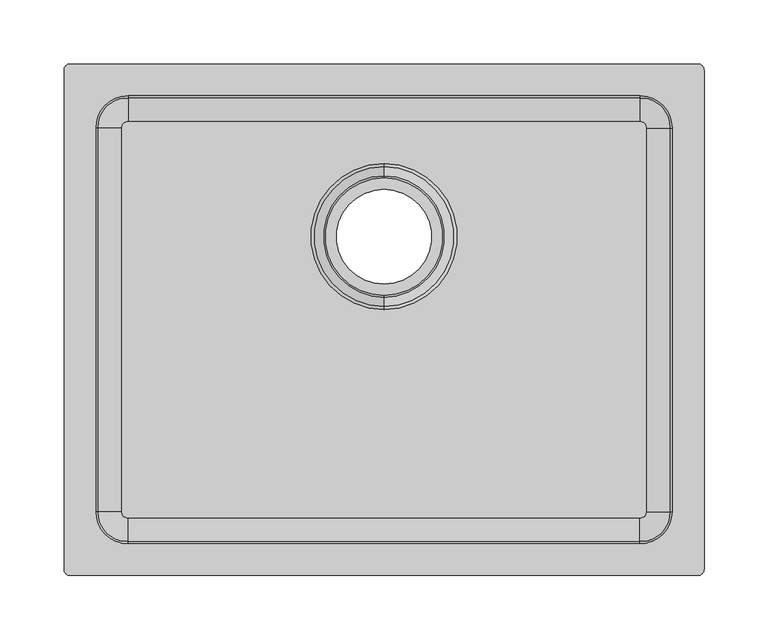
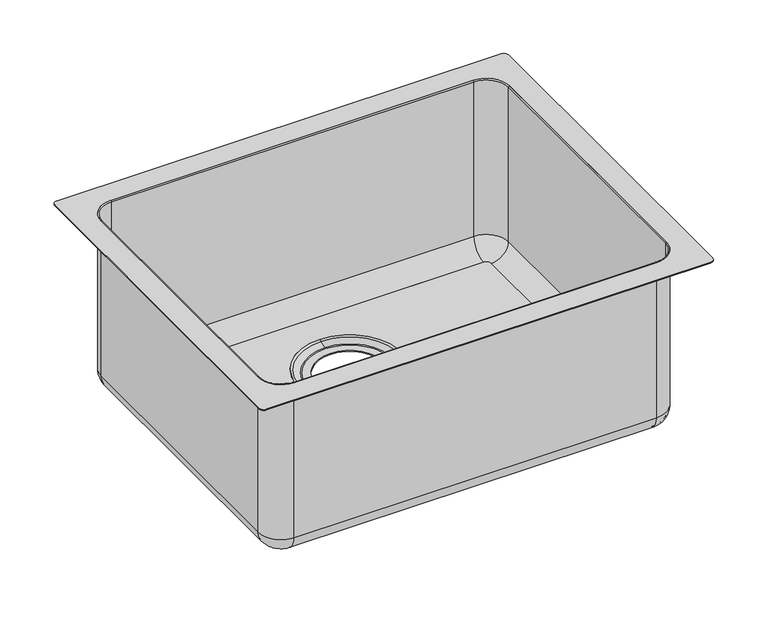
"""IFC4 building model written with IfcOpenShell, lengths in millimetres: flow terminal geometry, Cuba_Cozinha : Cuba 40x50."""

from ifc_helpers import new_model, si_unit, point, frame, frame_2d, origin, place, context, project, spatial, polyline, circle_curve, ellipse_curve, trimmed, segment, composite_curve, outline, extrude, source, transform, mapped, element, save
from ifc_brep_helpers import plane_surface, cylinder_surface, revolved_surface, advanced_brep


def flow_terminal_5b9333c3(model_context):
    return source(origin(), model_context, "Body", "SolidModel", [
        advanced_brep(
        [(0.0, 119.6531226, 700.3536886), (0.0, 10.3468774, 700.3536886), (0.0, 8.0, 701.2), (0.0, 122.0, 701.2), (0.0, 112.4483726, 697.4717886), (0.0, 17.5516274, 697.4717886), (0.0, 111.037088, 697.2), (0.0, 18.962912, 697.2), (0.0, 102.0, 696.0), (0.0, 28.0, 696.0), (0.0, 28.0, 697.2), (0.0, 102.0, 697.2), (0.0, 112.8940414, 696.3576165), (0.0, 17.1059586, 696.3576165), (0.0, 18.962912, 696.0), (0.0, 111.037088, 696.0), (0.0, 122.0, 700.0), (0.0, 8.0, 700.0)],
        [
            (0, 1, circle_curve(frame((0.0, 65.0, 700.3536886), z_axis=(0.0, 0.0, -1.0), x_axis=(0.0, -1.0, 0.0)), 54.6531226)),
            (1, 2, circle_curve(frame((0.0, 4.7160597, 688.416238), z_axis=(1.0, 0.0, 0.0), x_axis=(0.0, 1.0, 0.0)), 13.1988195)),
            (2, 3, circle_curve(frame((0.0, 65.0, 701.2), z_axis=(0.0, 0.0, 1.0), x_axis=(0.0, -1.0, 0.0)), 57.0)),
            (3, 0, circle_curve(frame((0.0, 125.2839403, 688.416238), z_axis=(1.0, 0.0, 0.0), x_axis=(0.0, -1.0, 0.0)), 13.1988195)),
            (4, 5, circle_curve(frame((0.0, 65.0, 697.4717886), z_axis=(0.0, 0.0, -1.0), x_axis=(0.0, -1.0, 0.0)), 47.4483726)),
            (5, 1),
            (0, 4),
            (6, 7, circle_curve(frame((0.0, 65.0, 697.2), z_axis=(0.0, 0.0, -1.0), x_axis=(0.0, -1.0, 0.0)), 46.037088)),
            (7, 5, circle_curve(frame((0.0, 18.962912, 701.0), z_axis=(-1.0, 0.0, 0.0), x_axis=(0.0, 1.0, 0.0)), 3.8)),
            (4, 6, circle_curve(frame((0.0, 111.037088, 701.0), z_axis=(-1.0, 0.0, 0.0), x_axis=(0.0, -1.0, 0.0)), 3.8)),
            (8, 9, circle_curve(frame((0.0, 65.0, 696.0), z_axis=(0.0, 0.0, -1.0), x_axis=(0.0, -1.0, 0.0)), 37.0)),
            (9, 10),
            (10, 11, circle_curve(frame((0.0, 65.0, 697.2), z_axis=(0.0, 0.0, 1.0), x_axis=(0.0, -1.0, 0.0)), 37.0)),
            (11, 8),
            (12, 13, circle_curve(frame((0.0, 65.0, 696.3576165), z_axis=(0.0, 0.0, -1.0), x_axis=(0.0, -1.0, 0.0)), 47.8940414)),
            (13, 14, circle_curve(frame((0.0, 18.962912, 701.0), z_axis=(1.0, 0.0, 0.0), x_axis=(0.0, 1.0, 0.0)), 5.0)),
            (14, 15, circle_curve(frame((0.0, 65.0, 696.0), z_axis=(0.0, 0.0, 1.0), x_axis=(0.0, -1.0, 0.0)), 46.037088)),
            (15, 12, circle_curve(frame((0.0, 111.037088, 701.0), z_axis=(1.0, 0.0, 0.0), x_axis=(0.0, -1.0, 0.0)), 5.0)),
            (16, 17, circle_curve(frame((0.0, 65.0, 700.0), z_axis=(0.0, 0.0, -1.0), x_axis=(0.0, -1.0, 0.0)), 57.0)),
            (17, 13),
            (12, 16),
            (2, 17),
            (16, 3),
            (1, 0, circle_curve(frame((0.0, 65.0, 700.3536886), z_axis=(0.0, 0.0, -1.0), x_axis=(0.0, 1.0, 0.0)), 54.6531226)),
            (3, 2, circle_curve(frame((0.0, 65.0, 701.2), z_axis=(0.0, 0.0, 1.0), x_axis=(0.0, 1.0, 0.0)), 57.0)),
            (5, 4, circle_curve(frame((0.0, 65.0, 697.4717886), z_axis=(0.0, 0.0, -1.0), x_axis=(0.0, 1.0, 0.0)), 47.4483726)),
            (7, 6, circle_curve(frame((0.0, 65.0, 697.2), z_axis=(0.0, 0.0, -1.0), x_axis=(0.0, 1.0, 0.0)), 46.037088)),
            (10, 11, circle_curve(frame((0.0, 65.0, 697.2), z_axis=(0.0, 0.0, -1.0), x_axis=(0.0, 1.0, 0.0)), 37.0)),
            (9, 8, circle_curve(frame((0.0, 65.0, 696.0), z_axis=(0.0, 0.0, -1.0), x_axis=(0.0, 1.0, 0.0)), 37.0)),
            (14, 15, circle_curve(frame((0.0, 65.0, 696.0), z_axis=(0.0, 0.0, -1.0), x_axis=(0.0, 1.0, 0.0)), 46.037088)),
            (13, 12, circle_curve(frame((0.0, 65.0, 696.3576165), z_axis=(0.0, 0.0, -1.0), x_axis=(0.0, 1.0, 0.0)), 47.8940414)),
            (17, 16, circle_curve(frame((0.0, 65.0, 700.0), z_axis=(0.0, 0.0, -1.0), x_axis=(0.0, 1.0, 0.0)), 57.0)),
        ],
        [
            revolved_surface(trimmed(ellipse_curve(frame((0.0, 4.7160597, 688.416238), z_axis=(-1.0, 0.0, 0.0), x_axis=(0.0, 1.0, 0.0)), 13.1988195, 13.1988195), [point((0.0, 8.0, 701.2))], [point((0.0, 10.3468774, 700.3536886))], True, "CARTESIAN"), (0.0, 65.0, 701.2), (0.0, 0.0, 1.0)),
            revolved_surface(polyline([(0.0, 10.3468774, 700.3536886), (0.0, 17.5516274, 697.4717886)]), (0.0, 65.0, 701.2), (0.0, 0.0, 1.0)),
            revolved_surface(trimmed(ellipse_curve(frame((0.0, 18.962912, 701.0), z_axis=(1.0, 0.0, 0.0), x_axis=(0.0, 1.0, 0.0)), 3.8, 3.8), [point((0.0, 17.5516274, 697.4717886))], [point((0.0, 18.962912, 697.2))], True, "CARTESIAN"), (0.0, 65.0, 701.2), (0.0, 0.0, 1.0)),
            revolved_surface(polyline([(0.0, 28.0, 697.2), (0.0, 28.0, 696.0)]), (0.0, 65.0, 701.2), (0.0, 0.0, 1.0)),
            revolved_surface(trimmed(ellipse_curve(frame((0.0, 18.962912, 701.0), z_axis=(-1.0, 0.0, 0.0), x_axis=(0.0, 1.0, 0.0)), 5.0, 5.0), [point((0.0, 18.962912, 696.0))], [point((0.0, 17.1059586, 696.3576165))], True, "CARTESIAN"), (0.0, 65.0, 701.2), (0.0, 0.0, 1.0)),
            revolved_surface(polyline([(0.0, 17.1059586, 696.3576165), (0.0, 8.0, 700.0)]), (0.0, 65.0, 701.2), (0.0, 0.0, 1.0)),
            cylinder_surface(frame((0.0, 65.0, 701.2), z_axis=(0.0, 0.0, 1.0), x_axis=(0.0, -1.0, 0.0)), 57.0),
            revolved_surface(trimmed(ellipse_curve(frame((0.0, 125.2839403, 688.416238), z_axis=(1.0, 0.0, 0.0), x_axis=(0.0, -1.0, 0.0)), 13.1988195, 13.1988195), [point((0.0, 122.0, 701.2))], [point((0.0, 119.6531226, 700.3536886))], True, "CARTESIAN"), (0.0, 65.0, 701.2), (0.0, 0.0, 1.0)),
            revolved_surface(polyline([(0.0, 119.6531226, 700.3536886), (0.0, 112.4483726, 697.4717886)]), (0.0, 65.0, 701.2), (0.0, 0.0, 1.0)),
            revolved_surface(trimmed(ellipse_curve(frame((0.0, 111.037088, 701.0), z_axis=(-1.0, 0.0, 0.0), x_axis=(0.0, -1.0, 0.0)), 3.8, 3.8), [point((0.0, 112.4483726, 697.4717886))], [point((0.0, 111.037088, 697.2))], True, "CARTESIAN"), (0.0, 65.0, 701.2), (0.0, 0.0, 1.0)),
            plane_surface(frame((0.0, 65.0, 697.2), z_axis=(0.0, 0.0, 1.0), x_axis=(0.0, 1.0, 0.0))),
            revolved_surface(polyline([(0.0, 102.0, 697.2), (0.0, 102.0, 696.0)]), (0.0, 65.0, 701.2), (0.0, 0.0, 1.0)),
            plane_surface(frame((0.0, 65.0, 696.0), z_axis=(0.0, 0.0, -1.0), x_axis=(0.0, 1.0, 0.0))),
            revolved_surface(trimmed(ellipse_curve(frame((0.0, 111.037088, 701.0), z_axis=(1.0, 0.0, 0.0), x_axis=(0.0, -1.0, 0.0)), 5.0, 5.0), [point((0.0, 111.037088, 696.0))], [point((0.0, 112.8940414, 696.3576165))], True, "CARTESIAN"), (0.0, 65.0, 701.2), (0.0, 0.0, 1.0)),
            revolved_surface(polyline([(0.0, 112.8940414, 696.3576165), (0.0, 122.0, 700.0)]), (0.0, 65.0, 701.2), (0.0, 0.0, 1.0)),
            cylinder_surface(frame((0.0, 65.0, 701.2), z_axis=(0.0, 0.0, 1.0), x_axis=(0.0, 1.0, 0.0)), 57.0),
        ],
        [
            (0, [[1, 2, 3, 4]]),
            (1, [[5, 6, -1, 7]]),
            (2, [[8, 9, -5, 10]]),
            (3, [[11, 12, 13, 14]]),
            (4, [[15, 16, 17, 18]]),
            (5, [[19, 20, -15, 21]]),
            (6, [[-3, 22, -19, 23]]),
            (7, [[24, -4, 25, -2]]),
            (8, [[26, -7, -24, -6]]),
            (9, [[27, -10, -26, -9]]),
            (10, [[-27, -8], [28, -13]]),
            (11, [[29, -14, -28, -12]]),
            (12, [[30, -17], [-29, -11]]),
            (13, [[31, -18, -30, -16]]),
            (14, [[32, -21, -31, -20]]),
            (15, [[-25, -23, -32, -22]]),
        ],
    ),
        extrude(outline(composite_curve([segment(polyline([(-200.0, 155.0), (200.0, 155.0)]), True, "CONTINUOUS"), segment(trimmed(circle_curve(frame_2d((200.0, 150.0)), 5.0), [point((200.0, 155.0))], [point((205.0, 150.0))], False, "CARTESIAN"), True, "CONTINUOUS"), segment(polyline([(205.0, 150.0), (205.0, -150.0)]), True, "CONTINUOUS"), segment(trimmed(circle_curve(frame_2d((200.0, -150.0)), 5.0), [point((205.0, -150.0))], [point((200.0, -155.0))], False, "CARTESIAN"), True, "CONTINUOUS"), segment(polyline([(200.0, -155.0), (-200.0, -155.0)]), True, "CONTINUOUS"), segment(trimmed(circle_curve(frame_2d((-200.0, -150.0)), 5.0), [point((-200.0, -155.0))], [point((-205.0, -150.0))], False, "CARTESIAN"), True, "CONTINUOUS"), segment(polyline([(-205.0, -150.0), (-205.0, 150.0)]), True, "CONTINUOUS"), segment(trimmed(circle_curve(frame_2d((-200.0, 150.0)), 5.0), [point((-205.0, 150.0))], [point((-200.0, 155.0))], False, "CARTESIAN"), True, "CONTINUOUS")], self_intersect=False), holes=[composite_curve([segment(trimmed(circle_curve(frame_2d((0.0, 65.0)), 57.0), [point((0.0, 8.0))], [point((0.0, 122.0))], True, "CARTESIAN"), True, "CONTINUOUS"), segment(trimmed(circle_curve(frame_2d((0.0, 65.0)), 57.0), [point((0.0, 122.0))], [point((0.0, 8.0))], True, "CARTESIAN"), True, "CONTINUOUS")], self_intersect=False)]), frame((0.0, 0.0, 700.0), z_axis=(0.0, 0.0, 1.0), x_axis=(1.0, 0.0, 0.0)), (0.0, 0.0, 1.0), 1.2),
        advanced_brep(
        [(205.0, 150.0, 700.0), (200.0, 155.0, 700.0), (200.0, 175.0, 720.0), (225.0, 150.0, 720.0), (205.0, 150.0, 701.2), (200.0, 155.0, 701.2), (223.8, 150.0, 720.0), (200.0, 173.8, 720.0), (223.8, 150.0, 900.0), (200.0, 173.8, 900.0), (225.0, 150.0, 901.2), (200.0, 175.0, 901.2), (225.0, -150.0, 720.0), (205.0, -150.0, 700.0), (205.0, -150.0, 701.2), (223.8, -150.0, 720.0), (223.8, -150.0, 900.0), (225.0, -150.0, 901.2), (200.0, -155.0, 700.0), (200.0, -175.0, 720.0), (200.0, -155.0, 701.2), (200.0, -173.8, 720.0), (200.0, -173.8, 900.0), (200.0, -175.0, 901.2), (-200.0, -175.0, 720.0), (-200.0, -155.0, 700.0), (-200.0, -155.0, 701.2), (-200.0, -173.8, 720.0), (-200.0, -173.8, 900.0), (-200.0, -175.0, 901.2), (-205.0, -150.0, 700.0), (-225.0, -150.0, 720.0), (-205.0, -150.0, 701.2), (-223.8, -150.0, 720.0), (-223.8, -150.0, 900.0), (-225.0, -150.0, 901.2), (-225.0, 150.0, 720.0), (-205.0, 150.0, 700.0), (-205.0, 150.0, 701.2), (-223.8, 150.0, 720.0), (-223.8, 150.0, 900.0), (-225.0, 150.0, 901.2), (-200.0, 155.0, 700.0), (-200.0, 175.0, 720.0), (-200.0, 155.0, 701.2), (-200.0, 173.8, 720.0), (-200.0, 173.8, 900.0), (-200.0, 175.0, 901.2)],
        [
            (0, 1, circle_curve(frame((200.0, 150.0, 700.0), z_axis=(0.0, 0.0, 1.0), x_axis=(0.0, 1.0, 0.0)), 5.0)),
            (1, 2, circle_curve(frame((200.0, 155.0, 720.0), z_axis=(1.0, 0.0, 0.0), x_axis=(0.0, 1.0, 0.0)), 20.0)),
            (2, 3, circle_curve(frame((200.0, 150.0, 720.0), z_axis=(0.0, 0.0, -1.0), x_axis=(0.0, 1.0, 0.0)), 25.0)),
            (3, 0, circle_curve(frame((205.0, 150.0, 720.0), z_axis=(0.0, 1.0, 0.0), x_axis=(1.0, 0.0, 0.0)), 20.0)),
            (4, 5, circle_curve(frame((200.0, 150.0, 701.2), z_axis=(0.0, 0.0, 1.0), x_axis=(0.0, 1.0, 0.0)), 5.0)),
            (5, 1),
            (0, 4),
            (6, 7, circle_curve(frame((200.0, 150.0, 720.0), z_axis=(0.0, 0.0, 1.0), x_axis=(0.0, 1.0, 0.0)), 23.8)),
            (7, 5, circle_curve(frame((200.0, 155.0, 720.0), z_axis=(-1.0, 0.0, 0.0), x_axis=(0.0, 1.0, 0.0)), 18.8)),
            (4, 6, circle_curve(frame((205.0, 150.0, 720.0), z_axis=(0.0, -1.0, 0.0), x_axis=(1.0, 0.0, 0.0)), 18.8)),
            (8, 9, circle_curve(frame((200.0, 150.0, 900.0), z_axis=(0.0, 0.0, 1.0), x_axis=(0.0, 1.0, 0.0)), 23.8)),
            (9, 7),
            (6, 8),
            (10, 11, circle_curve(frame((200.0, 150.0, 901.2), z_axis=(0.0, 0.0, 1.0), x_axis=(0.0, 1.0, 0.0)), 25.0)),
            (11, 9, circle_curve(frame((200.0, 175.0, 900.0), z_axis=(1.0, 0.0, 0.0), x_axis=(0.0, 1.0, 0.0)), 1.2)),
            (8, 10, circle_curve(frame((225.0, 150.0, 900.0), z_axis=(0.0, 1.0, 0.0), x_axis=(1.0, 0.0, 0.0)), 1.2)),
            (2, 11),
            (10, 3),
            (3, 12),
            (12, 13, circle_curve(frame((205.0, -150.0, 720.0), z_axis=(0.0, 1.0, 0.0), x_axis=(1.0, 0.0, 0.0)), 20.0)),
            (13, 0),
            (13, 14),
            (14, 4),
            (14, 15, circle_curve(frame((205.0, -150.0, 720.0), z_axis=(0.0, -1.0, 0.0), x_axis=(1.0, 0.0, 0.0)), 18.8)),
            (15, 6),
            (15, 16),
            (16, 8),
            (16, 17, circle_curve(frame((225.0, -150.0, 900.0), z_axis=(0.0, 1.0, 0.0), x_axis=(1.0, 0.0, 0.0)), 1.2)),
            (17, 10),
            (17, 12),
            (18, 13, circle_curve(frame((200.0, -150.0, 700.0), z_axis=(0.0, 0.0, 1.0), x_axis=(1.0, 0.0, 0.0)), 5.0)),
            (12, 19, circle_curve(frame((200.0, -150.0, 720.0), z_axis=(0.0, 0.0, -1.0), x_axis=(1.0, 0.0, 0.0)), 25.0)),
            (19, 18, circle_curve(frame((200.0, -155.0, 720.0), z_axis=(1.0, 0.0, 0.0), x_axis=(0.0, -1.0, 0.0)), 20.0)),
            (20, 14, circle_curve(frame((200.0, -150.0, 701.2), z_axis=(0.0, 0.0, 1.0), x_axis=(1.0, 0.0, 0.0)), 5.0)),
            (18, 20),
            (21, 15, circle_curve(frame((200.0, -150.0, 720.0), z_axis=(0.0, 0.0, 1.0), x_axis=(1.0, 0.0, 0.0)), 23.8)),
            (20, 21, circle_curve(frame((200.0, -155.0, 720.0), z_axis=(-1.0, 0.0, 0.0), x_axis=(0.0, -1.0, 0.0)), 18.8)),
            (22, 16, circle_curve(frame((200.0, -150.0, 900.0), z_axis=(0.0, 0.0, 1.0), x_axis=(1.0, 0.0, 0.0)), 23.8)),
            (21, 22),
            (23, 17, circle_curve(frame((200.0, -150.0, 901.2), z_axis=(0.0, 0.0, 1.0), x_axis=(1.0, 0.0, 0.0)), 25.0)),
            (22, 23, circle_curve(frame((200.0, -175.0, 900.0), z_axis=(1.0, 0.0, 0.0), x_axis=(0.0, -1.0, 0.0)), 1.2)),
            (23, 19),
            (19, 24),
            (24, 25, circle_curve(frame((-200.0, -155.0, 720.0), z_axis=(1.0, 0.0, 0.0), x_axis=(0.0, -1.0, 0.0)), 20.0)),
            (25, 18),
            (25, 26),
            (26, 20),
            (26, 27, circle_curve(frame((-200.0, -155.0, 720.0), z_axis=(-1.0, 0.0, 0.0), x_axis=(0.0, -1.0, 0.0)), 18.8)),
            (27, 21),
            (27, 28),
            (28, 22),
            (28, 29, circle_curve(frame((-200.0, -175.0, 900.0), z_axis=(1.0, 0.0, 0.0), x_axis=(0.0, -1.0, 0.0)), 1.2)),
            (29, 23),
            (29, 24),
            (30, 25, circle_curve(frame((-200.0, -150.0, 700.0), z_axis=(0.0, 0.0, 1.0), x_axis=(0.0, -1.0, 0.0)), 5.0)),
            (24, 31, circle_curve(frame((-200.0, -150.0, 720.0), z_axis=(0.0, 0.0, -1.0), x_axis=(0.0, -1.0, 0.0)), 25.0)),
            (31, 30, circle_curve(frame((-205.0, -150.0, 720.0), z_axis=(0.0, -1.0, 0.0), x_axis=(-1.0, 0.0, 0.0)), 20.0)),
            (32, 26, circle_curve(frame((-200.0, -150.0, 701.2), z_axis=(0.0, 0.0, 1.0), x_axis=(0.0, -1.0, 0.0)), 5.0)),
            (30, 32),
            (33, 27, circle_curve(frame((-200.0, -150.0, 720.0), z_axis=(0.0, 0.0, 1.0), x_axis=(0.0, -1.0, 0.0)), 23.8)),
            (32, 33, circle_curve(frame((-205.0, -150.0, 720.0), z_axis=(0.0, 1.0, 0.0), x_axis=(-1.0, 0.0, 0.0)), 18.8)),
            (34, 28, circle_curve(frame((-200.0, -150.0, 900.0), z_axis=(0.0, 0.0, 1.0), x_axis=(0.0, -1.0, 0.0)), 23.8)),
            (33, 34),
            (35, 29, circle_curve(frame((-200.0, -150.0, 901.2), z_axis=(0.0, 0.0, 1.0), x_axis=(0.0, -1.0, 0.0)), 25.0)),
            (34, 35, circle_curve(frame((-225.0, -150.0, 900.0), z_axis=(0.0, -1.0, 0.0), x_axis=(-1.0, 0.0, 0.0)), 1.2)),
            (35, 31),
            (31, 36),
            (36, 37, circle_curve(frame((-205.0, 150.0, 720.0), z_axis=(0.0, -1.0, 0.0), x_axis=(-1.0, 0.0, 0.0)), 20.0)),
            (37, 30),
            (37, 38),
            (38, 32),
            (38, 39, circle_curve(frame((-205.0, 150.0, 720.0), z_axis=(0.0, 1.0, 0.0), x_axis=(-1.0, 0.0, 0.0)), 18.8)),
            (39, 33),
            (39, 40),
            (40, 34),
            (40, 41, circle_curve(frame((-225.0, 150.0, 900.0), z_axis=(0.0, -1.0, 0.0), x_axis=(-1.0, 0.0, 0.0)), 1.2)),
            (41, 35),
            (41, 36),
            (42, 37, circle_curve(frame((-200.0, 150.0, 700.0), z_axis=(0.0, 0.0, 1.0), x_axis=(-1.0, 0.0, 0.0)), 5.0)),
            (36, 43, circle_curve(frame((-200.0, 150.0, 720.0), z_axis=(0.0, 0.0, -1.0), x_axis=(-1.0, 0.0, 0.0)), 25.0)),
            (43, 42, circle_curve(frame((-200.0, 155.0, 720.0), z_axis=(-1.0, 0.0, 0.0), x_axis=(0.0, 1.0, 0.0)), 20.0)),
            (44, 38, circle_curve(frame((-200.0, 150.0, 701.2), z_axis=(0.0, 0.0, 1.0), x_axis=(-1.0, 0.0, 0.0)), 5.0)),
            (42, 44),
            (45, 39, circle_curve(frame((-200.0, 150.0, 720.0), z_axis=(0.0, 0.0, 1.0), x_axis=(-1.0, 0.0, 0.0)), 23.8)),
            (44, 45, circle_curve(frame((-200.0, 155.0, 720.0), z_axis=(1.0, 0.0, 0.0), x_axis=(0.0, 1.0, 0.0)), 18.8)),
            (46, 40, circle_curve(frame((-200.0, 150.0, 900.0), z_axis=(0.0, 0.0, 1.0), x_axis=(-1.0, 0.0, 0.0)), 23.8)),
            (45, 46),
            (47, 41, circle_curve(frame((-200.0, 150.0, 901.2), z_axis=(0.0, 0.0, 1.0), x_axis=(-1.0, 0.0, 0.0)), 25.0)),
            (46, 47, circle_curve(frame((-200.0, 175.0, 900.0), z_axis=(-1.0, 0.0, 0.0), x_axis=(0.0, 1.0, 0.0)), 1.2)),
            (47, 43),
            (43, 2),
            (1, 42),
            (5, 44),
            (7, 45),
            (9, 46),
            (11, 47),
        ],
        [
            revolved_surface(trimmed(ellipse_curve(frame((200.0, 155.0, 720.0), z_axis=(-1.0, 0.0, 0.0), x_axis=(0.0, 1.0, 0.0)), 20.0, 20.0), [point((200.0, 175.0, 720.0))], [point((200.0, 155.0, 700.0))], True, "CARTESIAN"), (200.0, 150.0, 901.2), (0.0, 0.0, -1.0)),
            revolved_surface(polyline([(200.0, 155.0, 700.0), (200.0, 155.0, 701.2)]), (200.0, 150.0, 901.2), (0.0, 0.0, -1.0)),
            revolved_surface(trimmed(ellipse_curve(frame((200.0, 155.0, 720.0), z_axis=(1.0, 0.0, 0.0), x_axis=(0.0, 1.0, 0.0)), 18.8, 18.8), [point((200.0, 155.0, 701.2))], [point((200.0, 173.8, 720.0))], True, "CARTESIAN"), (200.0, 150.0, 901.2), (0.0, 0.0, -1.0)),
            revolved_surface(polyline([(200.0, 173.8, 720.0), (200.0, 173.8, 900.0)]), (200.0, 150.0, 901.2), (0.0, 0.0, -1.0)),
            revolved_surface(trimmed(ellipse_curve(frame((200.0, 175.0, 900.0), z_axis=(-1.0, 0.0, 0.0), x_axis=(0.0, 1.0, 0.0)), 1.2, 1.2), [point((200.0, 173.8, 900.0))], [point((200.0, 175.0, 901.2))], True, "CARTESIAN"), (200.0, 150.0, 901.2), (0.0, 0.0, -1.0)),
            cylinder_surface(frame((200.0, 150.0, 901.2), z_axis=(0.0, 0.0, -1.0), x_axis=(0.0, 1.0, 0.0)), 25.0),
            cylinder_surface(frame((205.0, 150.0, 720.0), z_axis=(0.0, 1.0, 0.0), x_axis=(1.0, 0.0, 0.0)), 20.0),
            plane_surface(frame((205.0, 150.0, 700.0), z_axis=(-1.0, 0.0, 0.0), x_axis=(0.0, -1.0, 0.0))),
            revolved_surface(polyline([(223.8, -150.0, 720.0), (223.8, 150.0, 720.0)]), (205.0, 150.0, 720.0), (0.0, -1.0, 0.0)),
            plane_surface(frame((223.8, 150.0, 720.0), z_axis=(-1.0, 0.0, 0.0), x_axis=(0.0, -1.0, 0.0))),
            cylinder_surface(frame((225.0, 150.0, 900.0), z_axis=(0.0, 1.0, 0.0), x_axis=(1.0, 0.0, 0.0)), 1.2),
            plane_surface(frame((225.0, 150.0, 901.2), z_axis=(1.0, 0.0, 0.0), x_axis=(0.0, -1.0, 0.0))),
            revolved_surface(trimmed(ellipse_curve(frame((205.0, -150.0, 720.0), z_axis=(0.0, 1.0, 0.0), x_axis=(1.0, 0.0, 0.0)), 20.0, 20.0), [point((225.0, -150.0, 720.0))], [point((205.0, -150.0, 700.0))], True, "CARTESIAN"), (200.0, -150.0, 901.2), (0.0, 0.0, -1.0)),
            revolved_surface(polyline([(205.0, -150.0, 700.0), (205.0, -150.0, 701.2)]), (200.0, -150.0, 901.2), (0.0, 0.0, -1.0)),
            revolved_surface(trimmed(ellipse_curve(frame((205.0, -150.0, 720.0), z_axis=(0.0, -1.0, 0.0), x_axis=(1.0, 0.0, 0.0)), 18.8, 18.8), [point((205.0, -150.0, 701.2))], [point((223.8, -150.0, 720.0))], True, "CARTESIAN"), (200.0, -150.0, 901.2), (0.0, 0.0, -1.0)),
            revolved_surface(polyline([(223.8, -150.0, 720.0), (223.8, -150.0, 900.0)]), (200.0, -150.0, 901.2), (0.0, 0.0, -1.0)),
            revolved_surface(trimmed(ellipse_curve(frame((225.0, -150.0, 900.0), z_axis=(0.0, 1.0, 0.0), x_axis=(1.0, 0.0, 0.0)), 1.2, 1.2), [point((223.8, -150.0, 900.0))], [point((225.0, -150.0, 901.2))], True, "CARTESIAN"), (200.0, -150.0, 901.2), (0.0, 0.0, -1.0)),
            cylinder_surface(frame((200.0, -150.0, 901.2), z_axis=(0.0, 0.0, -1.0), x_axis=(1.0, 0.0, 0.0)), 25.0),
            cylinder_surface(frame((200.0, -155.0, 720.0), z_axis=(1.0, 0.0, 0.0), x_axis=(0.0, -1.0, 0.0)), 20.0),
            plane_surface(frame((200.0, -155.0, 700.0), z_axis=(0.0, 1.0, 0.0), x_axis=(-1.0, 0.0, 0.0))),
            revolved_surface(polyline([(-200.0, -173.8, 720.0), (200.0, -173.8, 720.0)]), (200.0, -155.0, 720.0), (-1.0, 0.0, 0.0)),
            plane_surface(frame((200.0, -173.8, 720.0), z_axis=(0.0, 1.0, 0.0), x_axis=(-1.0, 0.0, 0.0))),
            cylinder_surface(frame((200.0, -175.0, 900.0), z_axis=(1.0, 0.0, 0.0), x_axis=(0.0, -1.0, 0.0)), 1.2),
            plane_surface(frame((200.0, -175.0, 901.2), z_axis=(0.0, -1.0, 0.0), x_axis=(-1.0, 0.0, 0.0))),
            revolved_surface(trimmed(ellipse_curve(frame((-200.0, -155.0, 720.0), z_axis=(1.0, 0.0, 0.0), x_axis=(0.0, -1.0, 0.0)), 20.0, 20.0), [point((-200.0, -175.0, 720.0))], [point((-200.0, -155.0, 700.0))], True, "CARTESIAN"), (-200.0, -150.0, 901.2), (0.0, 0.0, -1.0)),
            revolved_surface(polyline([(-200.0, -155.0, 700.0), (-200.0, -155.0, 701.2)]), (-200.0, -150.0, 901.2), (0.0, 0.0, -1.0)),
            revolved_surface(trimmed(ellipse_curve(frame((-200.0, -155.0, 720.0), z_axis=(-1.0, 0.0, 0.0), x_axis=(0.0, -1.0, 0.0)), 18.8, 18.8), [point((-200.0, -155.0, 701.2))], [point((-200.0, -173.8, 720.0))], True, "CARTESIAN"), (-200.0, -150.0, 901.2), (0.0, 0.0, -1.0)),
            revolved_surface(polyline([(-200.0, -173.8, 720.0), (-200.0, -173.8, 900.0)]), (-200.0, -150.0, 901.2), (0.0, 0.0, -1.0)),
            revolved_surface(trimmed(ellipse_curve(frame((-200.0, -175.0, 900.0), z_axis=(1.0, 0.0, 0.0), x_axis=(0.0, -1.0, 0.0)), 1.2, 1.2), [point((-200.0, -173.8, 900.0))], [point((-200.0, -175.0, 901.2))], True, "CARTESIAN"), (-200.0, -150.0, 901.2), (0.0, 0.0, -1.0)),
            cylinder_surface(frame((-200.0, -150.0, 901.2), z_axis=(0.0, 0.0, -1.0), x_axis=(0.0, -1.0, 0.0)), 25.0),
            cylinder_surface(frame((-205.0, -150.0, 720.0), z_axis=(0.0, -1.0, 0.0), x_axis=(-1.0, 0.0, 0.0)), 20.0),
            plane_surface(frame((-205.0, -150.0, 700.0), z_axis=(1.0, 0.0, 0.0), x_axis=(0.0, 1.0, 0.0))),
            revolved_surface(polyline([(-223.8, 150.0, 720.0), (-223.8, -150.0, 720.0)]), (-205.0, -150.0, 720.0), (0.0, 1.0, 0.0)),
            plane_surface(frame((-223.8, -150.0, 720.0), z_axis=(1.0, 0.0, 0.0), x_axis=(0.0, 1.0, 0.0))),
            cylinder_surface(frame((-225.0, -150.0, 900.0), z_axis=(0.0, -1.0, 0.0), x_axis=(-1.0, 0.0, 0.0)), 1.2),
            plane_surface(frame((-225.0, -150.0, 901.2), z_axis=(-1.0, 0.0, 0.0), x_axis=(0.0, 1.0, 0.0))),
            revolved_surface(trimmed(ellipse_curve(frame((-205.0, 150.0, 720.0), z_axis=(0.0, -1.0, 0.0), x_axis=(-1.0, 0.0, 0.0)), 20.0, 20.0), [point((-225.0, 150.0, 720.0))], [point((-205.0, 150.0, 700.0))], True, "CARTESIAN"), (-200.0, 150.0, 901.2), (0.0, 0.0, -1.0)),
            revolved_surface(polyline([(-205.0, 150.0, 700.0), (-205.0, 150.0, 701.2)]), (-200.0, 150.0, 901.2), (0.0, 0.0, -1.0)),
            revolved_surface(trimmed(ellipse_curve(frame((-205.0, 150.0, 720.0), z_axis=(0.0, 1.0, 0.0), x_axis=(-1.0, 0.0, 0.0)), 18.8, 18.8), [point((-205.0, 150.0, 701.2))], [point((-223.8, 150.0, 720.0))], True, "CARTESIAN"), (-200.0, 150.0, 901.2), (0.0, 0.0, -1.0)),
            revolved_surface(polyline([(-223.8, 150.0, 720.0), (-223.8, 150.0, 900.0)]), (-200.0, 150.0, 901.2), (0.0, 0.0, -1.0)),
            revolved_surface(trimmed(ellipse_curve(frame((-225.0, 150.0, 900.0), z_axis=(0.0, -1.0, 0.0), x_axis=(-1.0, 0.0, 0.0)), 1.2, 1.2), [point((-223.8, 150.0, 900.0))], [point((-225.0, 150.0, 901.2))], True, "CARTESIAN"), (-200.0, 150.0, 901.2), (0.0, 0.0, -1.0)),
            cylinder_surface(frame((-200.0, 150.0, 901.2), z_axis=(0.0, 0.0, -1.0), x_axis=(-1.0, 0.0, 0.0)), 25.0),
            cylinder_surface(frame((-200.0, 155.0, 720.0), z_axis=(-1.0, 0.0, 0.0), x_axis=(0.0, 1.0, 0.0)), 20.0),
            plane_surface(frame((-200.0, 155.0, 700.0), z_axis=(0.0, -1.0, 0.0), x_axis=(1.0, 0.0, 0.0))),
            revolved_surface(polyline([(200.0, 173.8, 720.0), (-200.0, 173.8, 720.0)]), (-200.0, 155.0, 720.0), (1.0, 0.0, 0.0)),
            plane_surface(frame((-200.0, 173.8, 720.0), z_axis=(0.0, -1.0, 0.0), x_axis=(1.0, 0.0, 0.0))),
            cylinder_surface(frame((-200.0, 175.0, 900.0), z_axis=(-1.0, 0.0, 0.0), x_axis=(0.0, 1.0, 0.0)), 1.2),
            plane_surface(frame((-200.0, 175.0, 901.2), z_axis=(0.0, 1.0, 0.0), x_axis=(1.0, 0.0, 0.0))),
        ],
        [
            (0, [[1, 2, 3, 4]]),
            (1, [[5, 6, -1, 7]]),
            (2, [[8, 9, -5, 10]]),
            (3, [[11, 12, -8, 13]]),
            (4, [[14, 15, -11, 16]]),
            (5, [[-3, 17, -14, 18]]),
            (6, [[-4, 19, 20, 21]]),
            (7, [[-7, -21, 22, 23]]),
            (8, [[-10, -23, 24, 25]]),
            (9, [[-13, -25, 26, 27]]),
            (10, [[-16, -27, 28, 29]]),
            (11, [[-18, -29, 30, -19]]),
            (12, [[31, -20, 32, 33]]),
            (13, [[34, -22, -31, 35]]),
            (14, [[36, -24, -34, 37]]),
            (15, [[38, -26, -36, 39]]),
            (16, [[40, -28, -38, 41]]),
            (17, [[-32, -30, -40, 42]]),
            (18, [[-33, 43, 44, 45]]),
            (19, [[-35, -45, 46, 47]]),
            (20, [[-37, -47, 48, 49]]),
            (21, [[-39, -49, 50, 51]]),
            (22, [[-41, -51, 52, 53]]),
            (23, [[-42, -53, 54, -43]]),
            (24, [[55, -44, 56, 57]]),
            (25, [[58, -46, -55, 59]]),
            (26, [[60, -48, -58, 61]]),
            (27, [[62, -50, -60, 63]]),
            (28, [[64, -52, -62, 65]]),
            (29, [[-56, -54, -64, 66]]),
            (30, [[-57, 67, 68, 69]]),
            (31, [[-59, -69, 70, 71]]),
            (32, [[-61, -71, 72, 73]]),
            (33, [[-63, -73, 74, 75]]),
            (34, [[-65, -75, 76, 77]]),
            (35, [[-66, -77, 78, -67]]),
            (36, [[79, -68, 80, 81]]),
            (37, [[82, -70, -79, 83]]),
            (38, [[84, -72, -82, 85]]),
            (39, [[86, -74, -84, 87]]),
            (40, [[88, -76, -86, 89]]),
            (41, [[-80, -78, -88, 90]]),
            (42, [[-81, 91, -2, 92]]),
            (43, [[-83, -92, -6, 93]]),
            (44, [[-85, -93, -9, 94]]),
            (45, [[-87, -94, -12, 95]]),
            (46, [[-89, -95, -15, 96]]),
            (47, [[-90, -96, -17, -91]]),
        ],
    ),
        extrude(outline(composite_curve([segment(trimmed(circle_curve(frame_2d((245.0, 195.0)), 5.0), [point((245.0, 200.0))], [point((250.0, 195.0))], False, "CARTESIAN"), True, "CONTINUOUS"), segment(polyline([(250.0, 195.0), (250.0, -195.0)]), True, "CONTINUOUS"), segment(trimmed(circle_curve(frame_2d((245.0, -195.0)), 5.0), [point((250.0, -195.0))], [point((245.0, -200.0))], False, "CARTESIAN"), True, "CONTINUOUS"), segment(polyline([(245.0, -200.0), (-245.0, -200.0)]), True, "CONTINUOUS"), segment(trimmed(circle_curve(frame_2d((-245.0, -195.0)), 5.0), [point((-245.0, -200.0))], [point((-250.0, -195.0))], False, "CARTESIAN"), True, "CONTINUOUS"), segment(polyline([(-250.0, -195.0), (-250.0, 195.0)]), True, "CONTINUOUS"), segment(trimmed(circle_curve(frame_2d((-245.0, 195.0)), 5.0), [point((-250.0, 195.0))], [point((-245.0, 200.0))], False, "CARTESIAN"), True, "CONTINUOUS"), segment(polyline([(-245.0, 200.0), (245.0, 200.0)]), True, "CONTINUOUS")], self_intersect=False), holes=[composite_curve([segment(polyline([(-225.0, 150.0), (-225.0, -150.0)]), True, "CONTINUOUS"), segment(trimmed(circle_curve(frame_2d((-200.0, -150.0)), 25.0), [point((-225.0, -150.0))], [point((-200.0, -175.0))], True, "CARTESIAN"), True, "CONTINUOUS"), segment(polyline([(-200.0, -175.0), (200.0, -175.0)]), True, "CONTINUOUS"), segment(trimmed(circle_curve(frame_2d((200.0, -150.0)), 25.0), [point((200.0, -175.0))], [point((225.0, -150.0))], True, "CARTESIAN"), True, "CONTINUOUS"), segment(polyline([(225.0, -150.0), (225.0, 150.0)]), True, "CONTINUOUS"), segment(trimmed(circle_curve(frame_2d((200.0, 150.0)), 25.0), [point((225.0, 150.0))], [point((200.0, 175.0))], True, "CARTESIAN"), True, "CONTINUOUS"), segment(polyline([(200.0, 175.0), (-200.0, 175.0)]), True, "CONTINUOUS"), segment(trimmed(circle_curve(frame_2d((-200.0, 150.0)), 25.0), [point((-200.0, 175.0))], [point((-225.0, 150.0))], True, "CARTESIAN"), True, "CONTINUOUS")], self_intersect=False)]), frame((0.0, 0.0, 900.0), z_axis=(0.0, 0.0, 1.0), x_axis=(1.0, 0.0, 0.0)), (0.0, 0.0, 1.0), 1.2),
    ])


if __name__ == "__main__":
    model = new_model("IFC4")
    model_context = context("Model", 3, world=origin())
    ifc_project = project(units=[si_unit("LENGTHUNIT", "METRE", prefix="MILLI")], contexts=[model_context])
    site = spatial("IfcSite", under=ifc_project)
    building = spatial("IfcBuilding", under=site)
    placement = place(None, origin())
    flow_terminal_shape = flow_terminal_5b9333c3(model_context)
    element("IfcFlowTerminal", 1, ObjectType="Cuba_Cozinha : Cuba 40x50", at=placement, inside=building, context=model_context, shape_type="MappedRepresentation", body=[
        mapped(flow_terminal_shape, transform((0.0, 0.0, 0.0), x_axis=(1.0, 0.0, 0.0), y_axis=(0.0, 1.0, 0.0), z_axis=(0.0, 0.0, 1.0))),
    ])
    save(model, "model.ifc")
